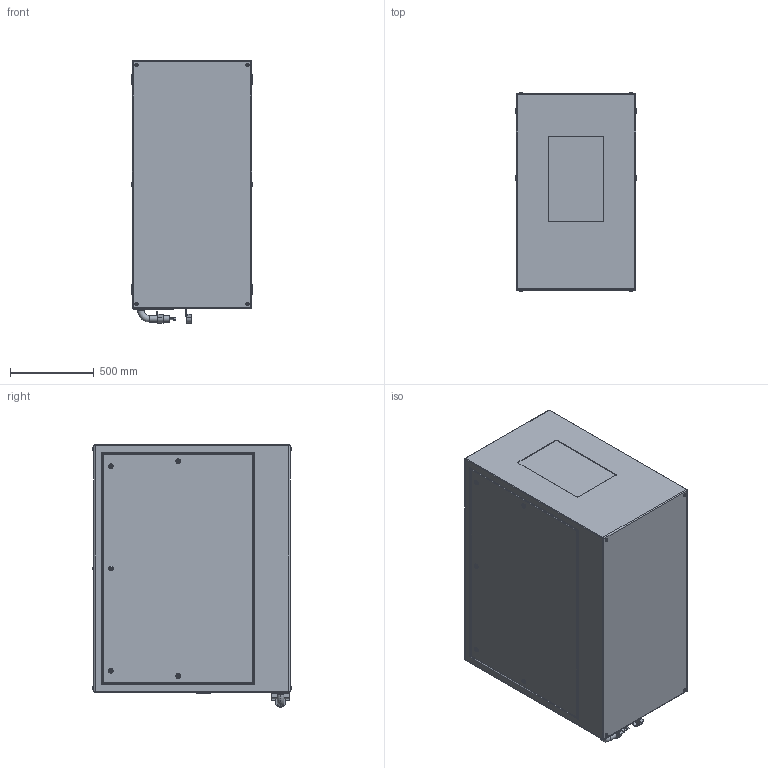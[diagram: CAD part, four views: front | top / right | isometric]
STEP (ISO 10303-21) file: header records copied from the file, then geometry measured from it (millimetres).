
FILE_DESCRIPTION (( 'STEP AP214' ), '1' );
FILE_NAME ('Oasis 59.322.P R02.STEP', '2022-09-12T23:43:55', ( '' ), ( '' ), 'SwSTEP 2.0', 'SolidWorks 2020', '' );
FILE_SCHEMA (( 'AUTOMOTIVE_DESIGN' ));
Length unit declared in the file: inch
Products named in the file (1): Oasis 59.322.P R02
Bounding box: 723.9 x 1185.67 x 1562.1 mm (x, y, z)
Volume: 1222882470 mm3; surface area: 7862635 mm2
Topology: 3 solids, 9 shells, 570 faces, 1301 edges, 826 vertices
Faces by surface type: plane 315, cylinder 193, torus 54, bspline 8
Entity records: 21891 total; most frequent: CARTESIAN_POINT 3210, DIRECTION 2843, ORIENTED_EDGE 2586, EDGE_CURVE 1293, AXIS2_PLACEMENT_3D 1019, VERTEX_POINT 826, VECTOR 805, LINE 805
